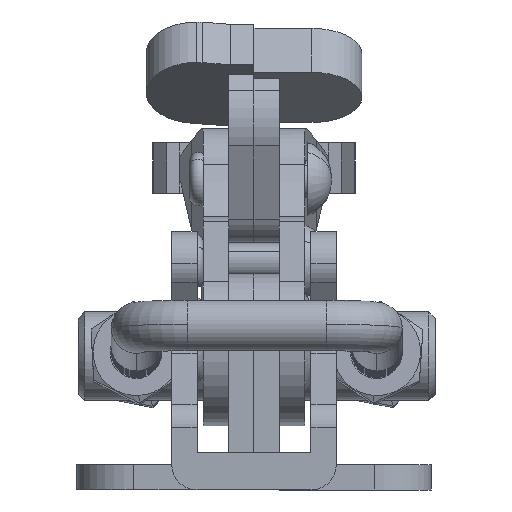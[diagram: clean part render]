
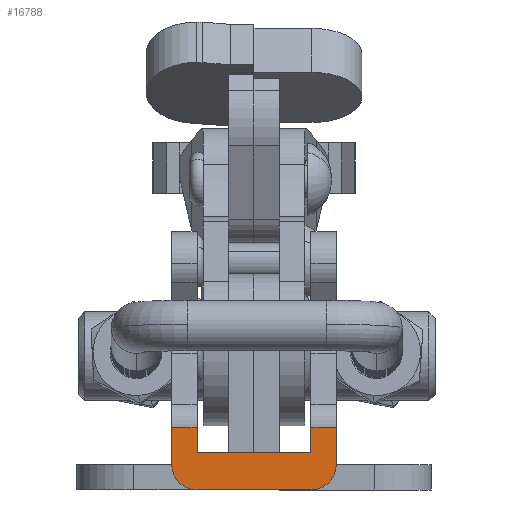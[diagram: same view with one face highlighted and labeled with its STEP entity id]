
A CAD part, left-side view. The second image highlights one B-rep face of the part: STEP entity #16788.
In plain terms, the highlighted planar face has unit normal (-1, 0, 0).
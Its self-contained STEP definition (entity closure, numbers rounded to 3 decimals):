
#99 = EDGE_CURVE ( 'NONE', #8597, #23240, #11983, .T. ) ;
#424 = EDGE_CURVE ( 'NONE', #21135, #20753, #16863, .T. ) ;
#941 = CARTESIAN_POINT ( 'NONE',  ( 139.417, -1414.073, 13. ) ) ;
#1173 = EDGE_CURVE ( 'NONE', #25888, #13546, #3548, .T. ) ;
#1182 = DIRECTION ( 'NONE',  ( 0., -1., 0. ) ) ;
#1929 = EDGE_CURVE ( 'NONE', #24924, #8597, #18920, .T. ) ;
#2286 = CARTESIAN_POINT ( 'NONE',  ( 139.417, -1419.015, 11. ) ) ;
#2611 = PLANE ( 'NONE',  #13648 ) ;
#2898 = DIRECTION ( 'NONE',  ( 0., 0., -1. ) ) ;
#3209 = DIRECTION ( 'NONE',  ( 0., 1., 0. ) ) ;
#3548 = LINE ( 'NONE', #23433, #16226 ) ;
#4874 = VERTEX_POINT ( 'NONE', #14690 ) ;
#5563 = VECTOR ( 'NONE', #20955, 1000. ) ;
#6010 = VECTOR ( 'NONE', #15545, 1000. ) ;
#6060 = EDGE_CURVE ( 'NONE', #25888, #4874, #15085, .T. ) ;
#6139 = CARTESIAN_POINT ( 'NONE',  ( 139.417, -1414.073, 0. ) ) ;
#6364 = ORIENTED_EDGE ( 'NONE', *, *, #16416, .T. ) ;
#6500 = CARTESIAN_POINT ( 'NONE',  ( 139.417, -1416.015, 2. ) ) ;
#7010 = DIRECTION ( 'NONE',  ( 0., 0., -1. ) ) ;
#7049 = LINE ( 'NONE', #941, #6010 ) ;
#7691 = LINE ( 'NONE', #26694, #24755 ) ;
#8583 = DIRECTION ( 'NONE',  ( 1., 0., 0. ) ) ;
#8597 = VERTEX_POINT ( 'NONE', #6500 ) ;
#8633 = DIRECTION ( 'NONE',  ( 0., -1., 0. ) ) ;
#9160 = CARTESIAN_POINT ( 'NONE',  ( 139.417, -1417.015, 2. ) ) ;
#10095 = CIRCLE ( 'NONE', #23008, 2. ) ;
#11097 = VECTOR ( 'NONE', #7010, 1000. ) ;
#11983 = LINE ( 'NONE', #24957, #12605 ) ;
#12044 = DIRECTION ( 'NONE',  ( 0., -1., 0. ) ) ;
#12429 = VERTEX_POINT ( 'NONE', #6139 ) ;
#12605 = VECTOR ( 'NONE', #3209, 1000. ) ;
#12644 = CARTESIAN_POINT ( 'NONE',  ( 139.417, -1419.015, 2. ) ) ;
#12836 = CARTESIAN_POINT ( 'NONE',  ( 139.417, -1416.015, 11. ) ) ;
#13051 = FACE_OUTER_BOUND ( 'NONE', #17234, .T. ) ;
#13102 = LINE ( 'NONE', #12836, #23445 ) ;
#13125 = EDGE_CURVE ( 'NONE', #23240, #12429, #7049, .T. ) ;
#13283 = CARTESIAN_POINT ( 'NONE',  ( 139.417, -1414.073, 2. ) ) ;
#13489 = DIRECTION ( 'NONE',  ( -1., 0., 0. ) ) ;
#13546 = VERTEX_POINT ( 'NONE', #24509 ) ;
#13643 = ORIENTED_EDGE ( 'NONE', *, *, #14254, .T. ) ;
#13648 = AXIS2_PLACEMENT_3D ( 'NONE', #15276, #8583, #25469 ) ;
#13891 = ORIENTED_EDGE ( 'NONE', *, *, #99, .T. ) ;
#13897 = DIRECTION ( 'NONE',  ( -1., 0., 0. ) ) ;
#13983 = ORIENTED_EDGE ( 'NONE', *, *, #424, .T. ) ;
#14254 = EDGE_CURVE ( 'NONE', #12429, #21135, #7691, .T. ) ;
#14291 = CARTESIAN_POINT ( 'NONE',  ( 139.417, -1414.073, 13. ) ) ;
#14690 = CARTESIAN_POINT ( 'NONE',  ( 139.417, -1414.073, 11. ) ) ;
#15085 = LINE ( 'NONE', #17587, #11097 ) ;
#15170 = DIRECTION ( 'NONE',  ( 0., 0., -1. ) ) ;
#15276 = CARTESIAN_POINT ( 'NONE',  ( 139.417, -1419.015, 13. ) ) ;
#15545 = DIRECTION ( 'NONE',  ( 0., 0., -1. ) ) ;
#16063 = ORIENTED_EDGE ( 'NONE', *, *, #6060, .T. ) ;
#16226 = VECTOR ( 'NONE', #12044, 1000. ) ;
#16416 = EDGE_CURVE ( 'NONE', #26400, #13546, #10095, .T. ) ;
#16726 = ORIENTED_EDGE ( 'NONE', *, *, #13125, .T. ) ;
#16788 = ADVANCED_FACE ( 'NONE', ( #13051 ), #2611, .F. ) ;
#16863 = CIRCLE ( 'NONE', #23115, 2. ) ;
#16898 = CARTESIAN_POINT ( 'NONE',  ( 139.417, -1419.015, 13. ) ) ;
#17105 = VECTOR ( 'NONE', #15170, 1000. ) ;
#17234 = EDGE_LOOP ( 'NONE', ( #18481, #6364, #25928, #16063, #17295, #25974, #13891, #16726, #13643, #13983 ) ) ;
#17295 = ORIENTED_EDGE ( 'NONE', *, *, #23705, .T. ) ;
#17401 = CARTESIAN_POINT ( 'NONE',  ( 139.417, -1416.015, 11. ) ) ;
#17587 = CARTESIAN_POINT ( 'NONE',  ( 139.417, -1414.073, 13. ) ) ;
#18481 = ORIENTED_EDGE ( 'NONE', *, *, #27287, .F. ) ;
#18920 = LINE ( 'NONE', #17401, #17105 ) ;
#20229 = CARTESIAN_POINT ( 'NONE',  ( 139.417, -1417.015, 0. ) ) ;
#20753 = VERTEX_POINT ( 'NONE', #12644 ) ;
#20955 = DIRECTION ( 'NONE',  ( 0., 0., -1. ) ) ;
#21089 = LINE ( 'NONE', #16898, #5563 ) ;
#21135 = VERTEX_POINT ( 'NONE', #20229 ) ;
#23008 = AXIS2_PLACEMENT_3D ( 'NONE', #26624, #13897, #26887 ) ;
#23115 = AXIS2_PLACEMENT_3D ( 'NONE', #9160, #13489, #2898 ) ;
#23240 = VERTEX_POINT ( 'NONE', #13283 ) ;
#23433 = CARTESIAN_POINT ( 'NONE',  ( 139.417, -1419.015, 13. ) ) ;
#23445 = VECTOR ( 'NONE', #8633, 1000. ) ;
#23705 = EDGE_CURVE ( 'NONE', #4874, #24924, #13102, .T. ) ;
#24509 = CARTESIAN_POINT ( 'NONE',  ( 139.417, -1417.015, 13. ) ) ;
#24755 = VECTOR ( 'NONE', #1182, 1000. ) ;
#24924 = VERTEX_POINT ( 'NONE', #25289 ) ;
#24957 = CARTESIAN_POINT ( 'NONE',  ( 139.417, -1416.015, 2. ) ) ;
#25289 = CARTESIAN_POINT ( 'NONE',  ( 139.417, -1416.015, 11. ) ) ;
#25469 = DIRECTION ( 'NONE',  ( 0., 1., 0. ) ) ;
#25888 = VERTEX_POINT ( 'NONE', #14291 ) ;
#25928 = ORIENTED_EDGE ( 'NONE', *, *, #1173, .F. ) ;
#25974 = ORIENTED_EDGE ( 'NONE', *, *, #1929, .T. ) ;
#26400 = VERTEX_POINT ( 'NONE', #2286 ) ;
#26624 = CARTESIAN_POINT ( 'NONE',  ( 139.417, -1417.015, 11. ) ) ;
#26694 = CARTESIAN_POINT ( 'NONE',  ( 139.417, -1419.015, 0. ) ) ;
#26887 = DIRECTION ( 'NONE',  ( 0., 0., -1. ) ) ;
#27287 = EDGE_CURVE ( 'NONE', #26400, #20753, #21089, .T. ) ;
